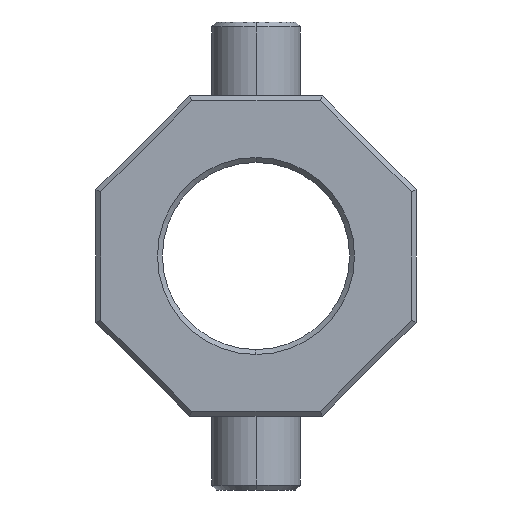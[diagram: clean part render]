
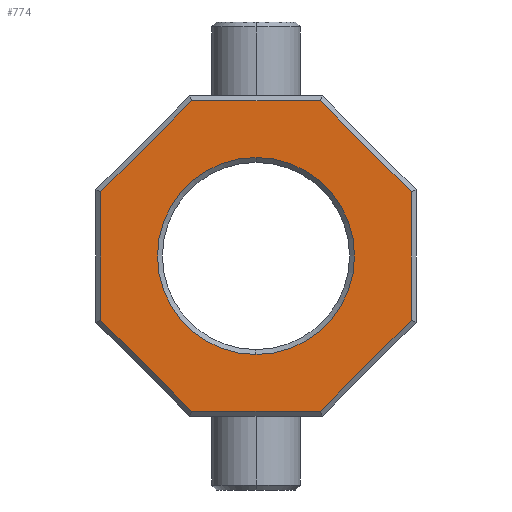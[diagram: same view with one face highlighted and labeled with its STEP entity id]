
A CAD part, left-side view. The second image highlights one B-rep face of the part: STEP entity #774.
In plain terms, the highlighted planar face has unit normal (-1, 0, 0).
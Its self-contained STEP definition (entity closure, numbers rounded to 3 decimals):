
#28 = LINE ( 'NONE', #38, #728 ) ;
#37 = AXIS2_PLACEMENT_3D ( 'NONE', #593, #1594, #152 ) ;
#38 = CARTESIAN_POINT ( 'NONE',  ( -12.5, 22.274, 22.274 ) ) ;
#103 = AXIS2_PLACEMENT_3D ( 'NONE', #317, #1762, #448 ) ;
#106 = DIRECTION ( 'NONE',  ( 1., 0., 0. ) ) ;
#107 = VECTOR ( 'NONE', #478, 1000. ) ;
#114 = EDGE_CURVE ( 'NONE', #199, #1001, #954, .T. ) ;
#133 = VERTEX_POINT ( 'NONE', #164 ) ;
#152 = DIRECTION ( 'NONE',  ( 0., 0., 1. ) ) ;
#164 = CARTESIAN_POINT ( 'NONE',  ( -12.5, 13.048, 31.5 ) ) ;
#181 = ORIENTED_EDGE ( 'NONE', *, *, #1517, .T. ) ;
#199 = VERTEX_POINT ( 'NONE', #1333 ) ;
#202 = CARTESIAN_POINT ( 'NONE',  ( -12.5, 22.274, -22.274 ) ) ;
#247 = VECTOR ( 'NONE', #286, 1000. ) ;
#282 = EDGE_CURVE ( 'NONE', #1793, #199, #748, .T. ) ;
#286 = DIRECTION ( 'NONE',  ( 0., -0.707, 0.707 ) ) ;
#291 = EDGE_CURVE ( 'NONE', #1250, #1181, #1384, .T. ) ;
#317 = CARTESIAN_POINT ( 'NONE',  ( -12.5, 0., 0. ) ) ;
#330 = CARTESIAN_POINT ( 'NONE',  ( -12.5, -22.274, -22.274 ) ) ;
#419 = ORIENTED_EDGE ( 'NONE', *, *, #291, .T. ) ;
#428 = ORIENTED_EDGE ( 'NONE', *, *, #456, .T. ) ;
#430 = CARTESIAN_POINT ( 'NONE',  ( -12.5, -31.5, 13.048 ) ) ;
#439 = DIRECTION ( 'NONE',  ( 0., 0., -1. ) ) ;
#448 = DIRECTION ( 'NONE',  ( 0., 0., 1. ) ) ;
#452 = ORIENTED_EDGE ( 'NONE', *, *, #611, .T. ) ;
#456 = EDGE_CURVE ( 'NONE', #133, #1793, #28, .T. ) ;
#478 = DIRECTION ( 'NONE',  ( 0., -0.707, -0.707 ) ) ;
#528 = DIRECTION ( 'NONE',  ( 0., 0., 1. ) ) ;
#543 = CARTESIAN_POINT ( 'NONE',  ( -12.5, 0., -20. ) ) ;
#544 = CARTESIAN_POINT ( 'NONE',  ( -12.5, 0., 20. ) ) ;
#593 = CARTESIAN_POINT ( 'NONE',  ( -12.5, 0., 0. ) ) ;
#611 = EDGE_CURVE ( 'NONE', #1128, #1250, #671, .T. ) ;
#619 = CARTESIAN_POINT ( 'NONE',  ( -12.5, 0., 31.5 ) ) ;
#671 = LINE ( 'NONE', #1967, #1165 ) ;
#672 = CIRCLE ( 'NONE', #1103, 20. ) ;
#696 = CARTESIAN_POINT ( 'NONE',  ( -12.5, -13.048, -31.5 ) ) ;
#728 = VECTOR ( 'NONE', #1293, 1000. ) ;
#737 = EDGE_CURVE ( 'NONE', #1077, #1478, #1511, .T. ) ;
#746 = ORIENTED_EDGE ( 'NONE', *, *, #1551, .T. ) ;
#748 = LINE ( 'NONE', #1050, #1844 ) ;
#760 = DIRECTION ( 'NONE',  ( 0., 0., 1. ) ) ;
#774 = ADVANCED_FACE ( 'NONE', ( #1241, #1753 ), #1918, .T. ) ;
#828 = EDGE_LOOP ( 'NONE', ( #746, #1645 ) ) ;
#900 = CARTESIAN_POINT ( 'NONE',  ( -12.5, -31.5, -13.048 ) ) ;
#918 = CARTESIAN_POINT ( 'NONE',  ( -12.5, -22.274, 22.274 ) ) ;
#954 = LINE ( 'NONE', #202, #107 ) ;
#961 = ORIENTED_EDGE ( 'NONE', *, *, #1275, .T. ) ;
#967 = VECTOR ( 'NONE', #1697, 1000. ) ;
#1001 = VERTEX_POINT ( 'NONE', #1112 ) ;
#1031 = LINE ( 'NONE', #1676, #1310 ) ;
#1039 = VECTOR ( 'NONE', #1921, 1000. ) ;
#1050 = CARTESIAN_POINT ( 'NONE',  ( -12.5, 31.5, 0. ) ) ;
#1060 = CARTESIAN_POINT ( 'NONE',  ( -12.5, -13.048, 31.5 ) ) ;
#1077 = VERTEX_POINT ( 'NONE', #543 ) ;
#1103 = AXIS2_PLACEMENT_3D ( 'NONE', #1233, #106, #760 ) ;
#1112 = CARTESIAN_POINT ( 'NONE',  ( -12.5, 13.048, -31.5 ) ) ;
#1128 = VERTEX_POINT ( 'NONE', #900 ) ;
#1165 = VECTOR ( 'NONE', #528, 1000. ) ;
#1181 = VERTEX_POINT ( 'NONE', #1060 ) ;
#1233 = CARTESIAN_POINT ( 'NONE',  ( -12.5, 0., 0. ) ) ;
#1241 = FACE_OUTER_BOUND ( 'NONE', #1650, .T. ) ;
#1250 = VERTEX_POINT ( 'NONE', #430 ) ;
#1252 = ORIENTED_EDGE ( 'NONE', *, *, #1261, .T. ) ;
#1261 = EDGE_CURVE ( 'NONE', #1452, #1128, #1698, .T. ) ;
#1275 = EDGE_CURVE ( 'NONE', #1181, #133, #1732, .T. ) ;
#1293 = DIRECTION ( 'NONE',  ( 0., 0.707, -0.707 ) ) ;
#1310 = VECTOR ( 'NONE', #1525, 1000. ) ;
#1333 = CARTESIAN_POINT ( 'NONE',  ( -12.5, 31.5, -13.048 ) ) ;
#1384 = LINE ( 'NONE', #918, #967 ) ;
#1452 = VERTEX_POINT ( 'NONE', #696 ) ;
#1478 = VERTEX_POINT ( 'NONE', #544 ) ;
#1511 = CIRCLE ( 'NONE', #103, 20. ) ;
#1517 = EDGE_CURVE ( 'NONE', #1001, #1452, #1031, .T. ) ;
#1525 = DIRECTION ( 'NONE',  ( 0., -1., 0. ) ) ;
#1551 = EDGE_CURVE ( 'NONE', #1478, #1077, #672, .T. ) ;
#1594 = DIRECTION ( 'NONE',  ( -1., 0., 0. ) ) ;
#1610 = ORIENTED_EDGE ( 'NONE', *, *, #114, .T. ) ;
#1645 = ORIENTED_EDGE ( 'NONE', *, *, #737, .T. ) ;
#1650 = EDGE_LOOP ( 'NONE', ( #452, #419, #961, #428, #1816, #1610, #181, #1252 ) ) ;
#1676 = CARTESIAN_POINT ( 'NONE',  ( -12.5, 0., -31.5 ) ) ;
#1697 = DIRECTION ( 'NONE',  ( 0., 0.707, 0.707 ) ) ;
#1698 = LINE ( 'NONE', #330, #247 ) ;
#1732 = LINE ( 'NONE', #619, #1039 ) ;
#1753 = FACE_BOUND ( 'NONE', #828, .T. ) ;
#1762 = DIRECTION ( 'NONE',  ( 1., 0., 0. ) ) ;
#1793 = VERTEX_POINT ( 'NONE', #2035 ) ;
#1816 = ORIENTED_EDGE ( 'NONE', *, *, #282, .T. ) ;
#1844 = VECTOR ( 'NONE', #439, 1000. ) ;
#1918 = PLANE ( 'NONE',  #37 ) ;
#1921 = DIRECTION ( 'NONE',  ( 0., 1., 0. ) ) ;
#1967 = CARTESIAN_POINT ( 'NONE',  ( -12.5, -31.5, 0. ) ) ;
#2035 = CARTESIAN_POINT ( 'NONE',  ( -12.5, 31.5, 13.048 ) ) ;
